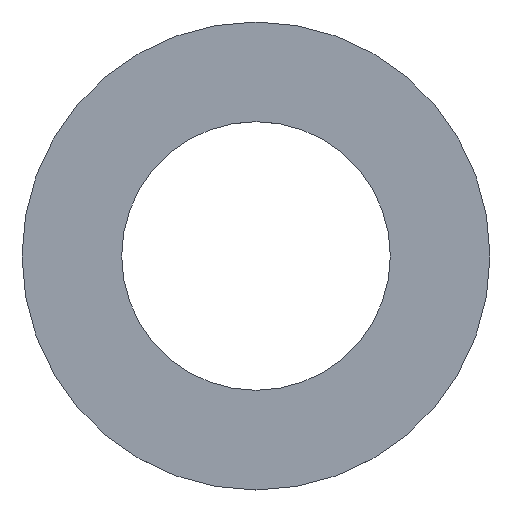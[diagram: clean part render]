
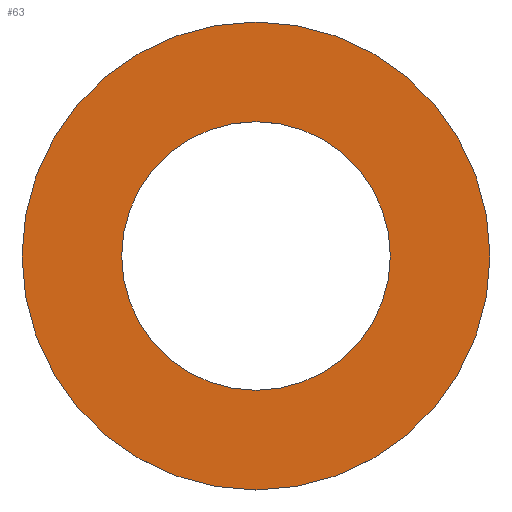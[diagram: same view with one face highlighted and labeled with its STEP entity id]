
A CAD part, top view. The second image highlights one B-rep face of the part: STEP entity #63.
In plain terms, the highlighted planar face has unit normal (0, 0, 1).
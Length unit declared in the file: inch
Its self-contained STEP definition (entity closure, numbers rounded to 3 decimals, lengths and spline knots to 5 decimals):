
#15=FACE_BOUND('',#26,.T.);
#17=PLANE('',#85);
#21=FACE_OUTER_BOUND('',#25,.T.);
#25=EDGE_LOOP('',(#55));
#26=EDGE_LOOP('',(#56));
#33=CIRCLE('',#80,0.96875);
#35=CIRCLE('',#83,1.6875);
#37=VERTEX_POINT('',#109);
#39=VERTEX_POINT('',#115);
#41=EDGE_CURVE('',#37,#37,#33,.T.);
#44=EDGE_CURVE('',#39,#39,#35,.T.);
#55=ORIENTED_EDGE('',*,*,#44,.T.);
#56=ORIENTED_EDGE('',*,*,#41,.T.);
#63=ADVANCED_FACE('',(#21,#15),#17,.T.);
#80=AXIS2_PLACEMENT_3D('',#110,#91,#92);
#83=AXIS2_PLACEMENT_3D('',#116,#98,#99);
#85=AXIS2_PLACEMENT_3D('',#120,#103,#104);
#91=DIRECTION('center_axis',(0.,0.,-1.));
#92=DIRECTION('ref_axis',(1.,0.,0.));
#98=DIRECTION('center_axis',(0.,0.,1.));
#99=DIRECTION('ref_axis',(1.,0.,0.));
#103=DIRECTION('center_axis',(0.,0.,1.));
#104=DIRECTION('ref_axis',(1.,0.,0.));
#109=CARTESIAN_POINT('',(-0.96875,0.,0.02));
#110=CARTESIAN_POINT('Origin',(0.,0.,0.02));
#115=CARTESIAN_POINT('',(-1.6875,0.,0.02));
#116=CARTESIAN_POINT('Origin',(0.,0.,0.02));
#120=CARTESIAN_POINT('Origin',(0.,0.,0.02));
